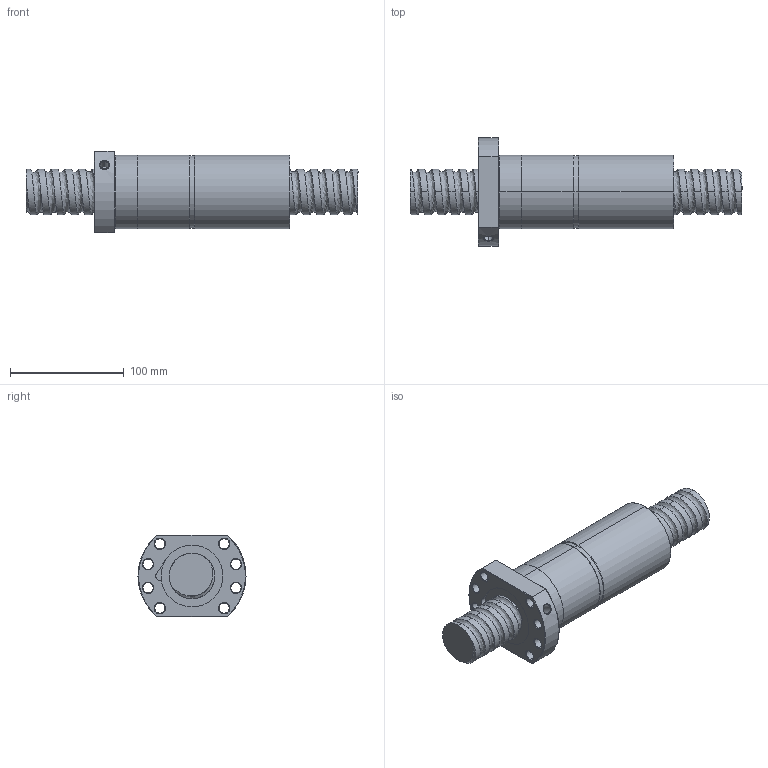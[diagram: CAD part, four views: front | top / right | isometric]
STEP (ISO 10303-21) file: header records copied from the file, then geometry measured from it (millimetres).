
FILE_DESCRIPTION (( 'STEP AP214' ), '1' );
FILE_NAME ('FDDC04012T5-F-C.STEP', '2010-07-06T05:30:46', ( 'XPAUTO' ), ( 'XPAUTO' ), 'SwSTEP 2.0', 'SolidWorks 2007', '' );
FILE_SCHEMA (( 'AUTOMOTIVE_DESIGN' ));
Length unit declared in the file: millimetre
Products named in the file (3): FDDC04012T5-F-C.sldasm-Part-1_預設; FDDC04012T5-F-C; FDDC04012T5-F-C.sldasm-Part-2_預設
Assembly tree (2 placements, depth 2):
  FDDC04012T5-F-C
    FDDC04012T5-F-C.sldasm-Part-2_預設
    FDDC04012T5-F-C.sldasm-Part-1_預設
Bounding box: 292 x 95 x 72 mm (x, y, z)
Volume: 723118.1 mm3; surface area: 116455 mm2
Topology: 2 solids, 2 shells, 163 faces, 407 edges, 253 vertices
Faces by surface type: cylinder 94, cone 32, plane 22, torus 10, bspline 5
Entity records: 46660 total; most frequent: CARTESIAN_POINT 42814, ORIENTED_EDGE 814, DIRECTION 743, EDGE_CURVE 407, AXIS2_PLACEMENT_3D 300, VERTEX_POINT 253, EDGE_LOOP 188, FACE_OUTER_BOUND 163
